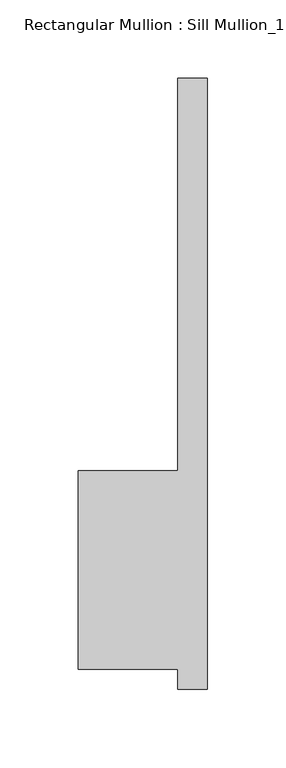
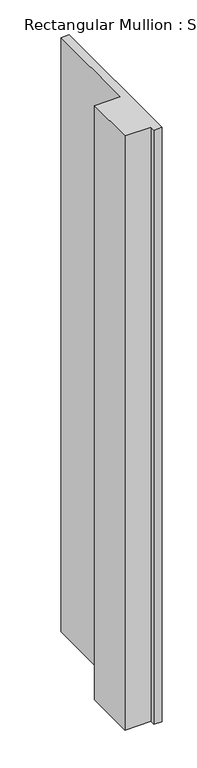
"""IFC4 building model written with IfcOpenShell, lengths in millimetres: member geometry."""

from ifc_helpers import new_model, si_unit, frame, origin, place, context, project, spatial, polyline, outline, extrude, source, transform, mapped, element, save


def member_92303e22(model_context):
    return source(origin(), model_context, "Body", "SweptSolid", [
        extrude(outline(polyline([(-82.55, 50.8), (-19.05, 50.8), (-19.05, 301.625), (0.0, 301.625), (0.0, -88.9), (-19.05, -88.9), (-19.05, -76.2), (-82.55, -76.2), (-82.55, 50.8)])), frame((0.0, 0.0, -1521.2785714), z_axis=(0.0, 0.0, 1.0), x_axis=(1.0, 0.0, 0.0)), (0.0, 0.0, 1.0), 1521.2785714),
    ])


if __name__ == "__main__":
    model = new_model("IFC4")
    model_context = context("Model", 3, world=origin())
    ifc_project = project(units=[si_unit("LENGTHUNIT", "METRE", prefix="MILLI")], contexts=[model_context])
    site = spatial("IfcSite", under=ifc_project)
    building = spatial("IfcBuilding", under=site)
    placement = place(None, origin())
    member_shape = member_92303e22(model_context)
    element("IfcMember", 1, ObjectType="Rectangular Mullion : Sill Mullion_15\" thick wall", at=placement, inside=building, context=model_context, shape_type="MappedRepresentation", body=[
        mapped(member_shape, transform((0.0, 0.0, 0.0), x_axis=(1.0, 0.0, 0.0), y_axis=(0.0, 1.0, 0.0), z_axis=(0.0, 0.0, 1.0))),
    ])
    save(model, "model.ifc")
